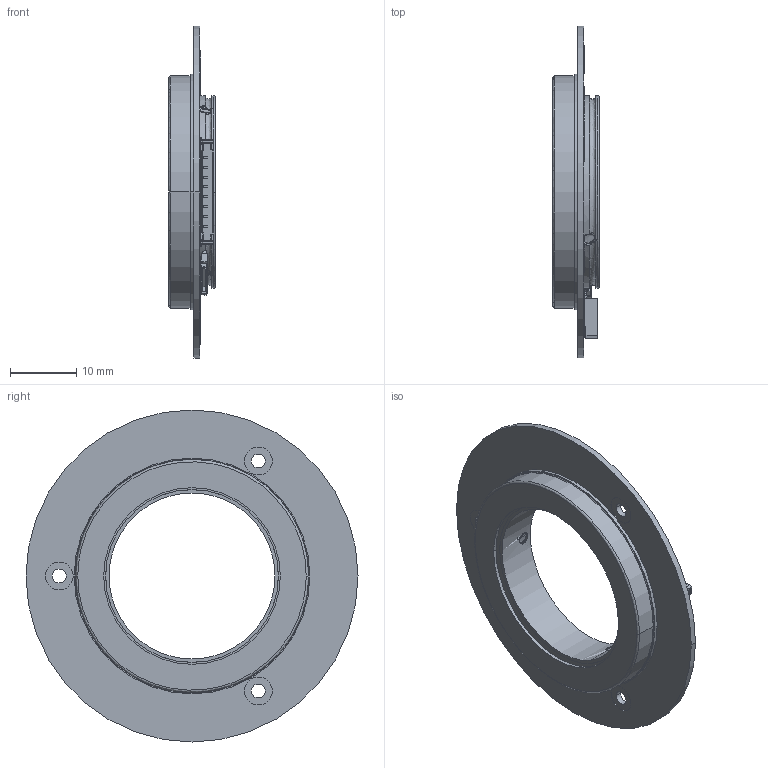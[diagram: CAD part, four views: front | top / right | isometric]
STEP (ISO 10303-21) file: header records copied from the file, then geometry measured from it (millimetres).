
FILE_DESCRIPTION (( 'STEP AP214' ), '1' );
FILE_NAME ('MBS-25-50R.STEP', '2024-07-16T01:35:34', ( '' ), ( '' ), 'SwSTEP 2.0', 'SolidWorks 2016', '' );
FILE_SCHEMA (( 'AUTOMOTIVE_DESIGN' ));
Length unit declared in the file: millimetre
Products named in the file (1): MBS-25-50R
Bounding box: 7 x 50 x 50 mm (x, y, z)
Surface area: 7118.6 mm2 (no closed solid volume)
Topology: 0 solids, 26 shells, 1375 faces, 3748 edges, 2443 vertices
Faces by surface type: plane 890, bspline 328, cylinder 145, cone 12
Full cylindrical faces by diameter (mm): 25 x1
Entity records: 91477 total; most frequent: CARTESIAN_POINT 52754, ORIENTED_EDGE 7431, DIRECTION 5405, EDGE_CURVE 3720, VECTOR 2699, LINE 2699, VERTEX_POINT 2440, EDGE_LOOP 1468
